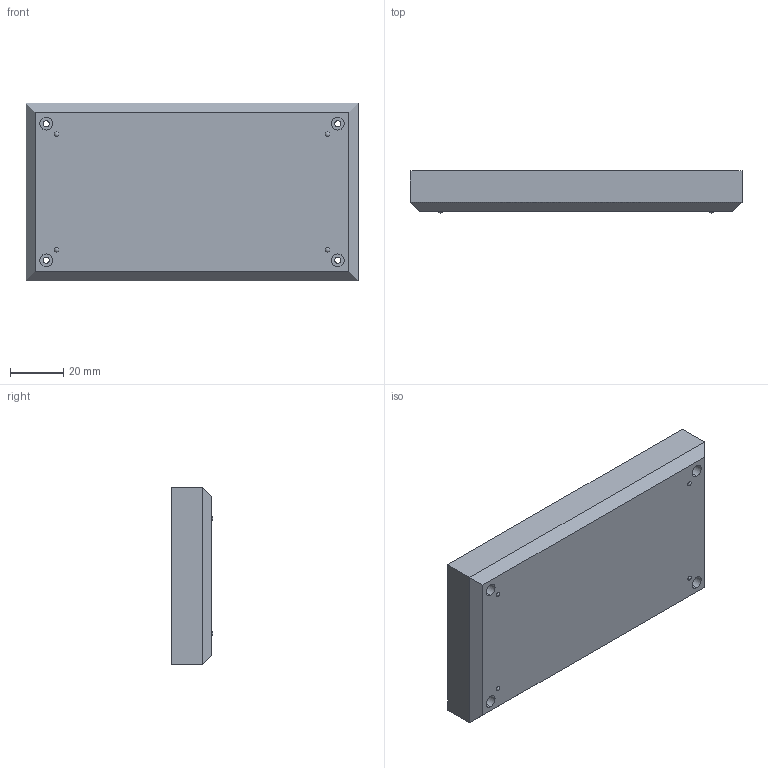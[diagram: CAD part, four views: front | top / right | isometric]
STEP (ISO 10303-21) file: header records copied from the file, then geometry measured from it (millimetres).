
FILE_DESCRIPTION (( 'STEP AP214' ), '1' );
FILE_NAME ('Cos PP61A.STEP', '2017-07-27T09:33:30', ( 'aaa' ), ( '' ), 'SwSTEP 2.0', 'SolidWorks 2013', '' );
FILE_SCHEMA (( 'AUTOMOTIVE_DESIGN' ));
Length unit declared in the file: millimetre
Products named in the file (1): Cos PP61A
Bounding box: 125 x 15.79 x 67 mm (x, y, z)
Volume: 41910.7 mm3; surface area: 30489.5 mm2
Topology: 1 solids, 1 shells, 152 faces, 381 edges, 254 vertices
Faces by surface type: plane 83, cylinder 65, torus 4
Entity records: 4721 total; most frequent: CARTESIAN_POINT 984, DIRECTION 781, ORIENTED_EDGE 762, EDGE_CURVE 381, AXIS2_PLACEMENT_3D 283, VERTEX_POINT 254, VECTOR 215, LINE 215
